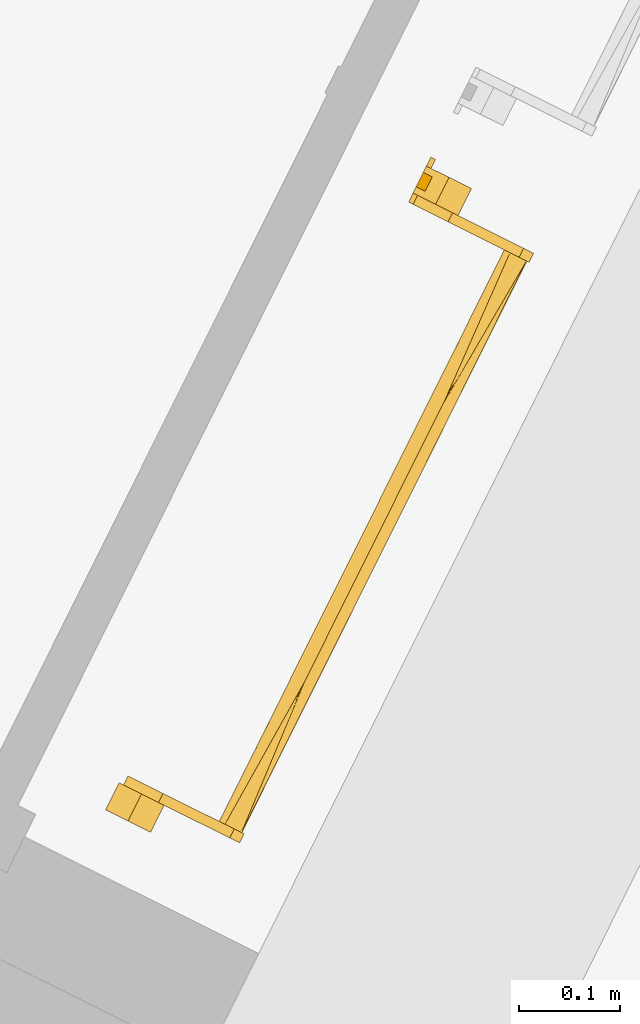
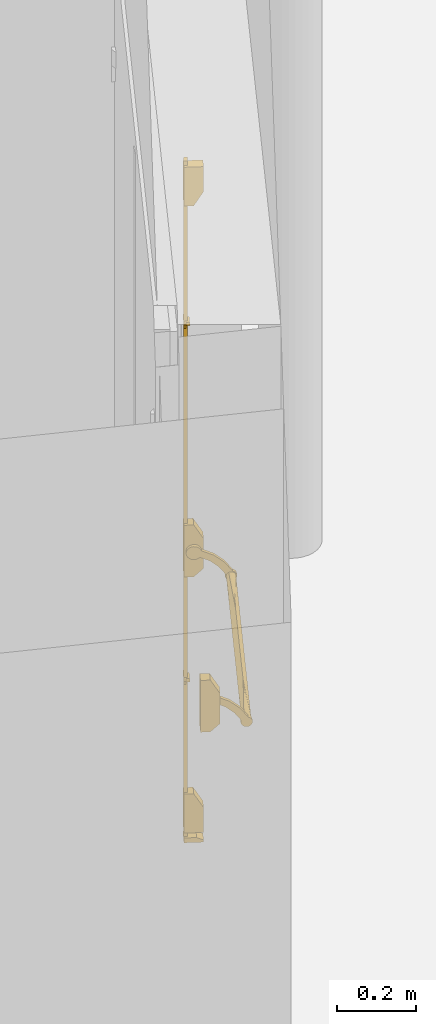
# One storey, part 28 of 91: 1 door.
"""IFC2X3 building model written with IfcOpenShell, lengths in metres."""

from ifc_helpers import new_model, entity, si_unit, converted_unit, derived_unit, direction, frame, origin, place, context, subcontext, project, spatial, faceted_brep, source, transform, mapped, material, material_list, type_object, type_shapes, element, save


model = new_model("IFC2X3")

# Units and contexts
model_context = context("Model", 3, precision=1e-05, world=origin(), true_north=direction((0.894925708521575, 0.446215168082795)))
context_of_model = context(None, 3, precision=1e-05, world=origin(), true_north=direction((0.894925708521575, 0.446215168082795)))
body_context = subcontext(model_context, "Body", "Model", "MODEL_VIEW")
ifc_project = project(units=[si_unit("LENGTHUNIT", "METRE"), si_unit("AREAUNIT", "SQUARE_METRE"), si_unit("VOLUMEUNIT", "CUBIC_METRE"), converted_unit("PLANEANGLEUNIT", "DEGREE", entity("IfcRatioMeasure", 0.0174532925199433), si_unit("PLANEANGLEUNIT", "RADIAN"), dimensions=[0, 0, 0, 0, 0, 0, 0]), si_unit("MASSUNIT", "GRAM", prefix="KILO"), si_unit("TIMEUNIT", "SECOND"), si_unit("FREQUENCYUNIT", "HERTZ"), si_unit("THERMODYNAMICTEMPERATUREUNIT", "DEGREE_CELSIUS"), derived_unit("THERMALTRANSMITTANCEUNIT", [(si_unit("MASSUNIT", "GRAM", prefix="KILO"), 1), (si_unit("THERMODYNAMICTEMPERATUREUNIT", "KELVIN"), -1), (si_unit("TIMEUNIT", "SECOND"), -3)]), derived_unit("VOLUMETRICFLOWRATEUNIT", [(si_unit("LENGTHUNIT", "METRE"), 3), (si_unit("TIMEUNIT", "SECOND"), -1)]), si_unit("ELECTRICCURRENTUNIT", "AMPERE"), si_unit("ELECTRICVOLTAGEUNIT", "VOLT"), si_unit("POWERUNIT", "WATT"), si_unit("FORCEUNIT", "NEWTON", prefix="KILO"), si_unit("ILLUMINANCEUNIT", "LUX"), si_unit("LUMINOUSFLUXUNIT", "LUMEN"), si_unit("LUMINOUSINTENSITYUNIT", "CANDELA"), si_unit("PRESSUREUNIT", "PASCAL")], contexts=[model_context, context_of_model])

# Site, building, storey
site_placement = place(None, frame((218.228324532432, 584.720189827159, 0.0), z_axis=(0.0, 0.0, 1.0), x_axis=(0.446215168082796, 0.894925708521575, 0.0)))
site = spatial("IfcSite", under=ifc_project, at=site_placement, Name="Default", CompositionType="ELEMENT")
building_placement = place(site_placement, origin())
building = spatial("IfcBuilding", under=site, at=building_placement, CompositionType="ELEMENT")
storey_placement = place(building_placement, origin())
storey = spatial("IfcBuildingStorey", under=building, at=storey_placement, Name="0 - Piano Terra", CompositionType="ELEMENT", Elevation=0.0)

# Door
ifc_material_1 = material(Name="Peinture - Gris fonçé")
ifc_material_2 = material(Name="Peinture - Gris")
ifc_material_list_1 = material_list([ifc_material_1, ifc_material_2])
ifc_material_list_2 = material_list([ifc_material_1, ifc_material_2])
door_style = type_object("IfcDoorStyle", Name="BarreAP", ConstructionType="NOTDEFINED", OperationType="NOTDEFINED", ParameterTakesPrecedence=False, Sizeable=False, material=ifc_material_list_2)
shared_shape = source(origin(), body_context, "Body", "Brep", [
    faceted_brep([(0.660000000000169, 0.110048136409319, 0.817251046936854), (0.660000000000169, 0.112636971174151, 0.815264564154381), (0.660000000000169, 0.115651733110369, 0.814015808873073), (0.660000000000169, 0.118886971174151, 0.813589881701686), (0.660000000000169, 0.122122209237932, 0.814015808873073), (0.660000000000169, 0.125136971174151, 0.815264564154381), (0.660000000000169, 0.127725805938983, 0.817251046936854), (0.660000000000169, 0.129712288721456, 0.819839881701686), (0.660000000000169, 0.130961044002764, 0.822854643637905), (0.660000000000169, 0.131386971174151, 0.826089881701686), (0.660000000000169, 0.130961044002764, 0.829325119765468), (0.660000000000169, 0.129712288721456, 0.832339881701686), (0.660000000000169, 0.127725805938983, 0.834928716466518), (0.660000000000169, 0.125136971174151, 0.836915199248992), (0.660000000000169, 0.122122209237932, 0.838163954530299), (0.660000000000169, 0.118886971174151, 0.838589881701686), (0.660000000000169, 0.115651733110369, 0.838163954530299), (0.660000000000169, 0.112636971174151, 0.836915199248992), (0.660000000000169, 0.110048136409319, 0.834928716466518), (0.660000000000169, 0.108061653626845, 0.832339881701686), (0.660000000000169, 0.106812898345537, 0.829325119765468), (0.660000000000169, 0.106386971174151, 0.826089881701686), (0.660000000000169, 0.106812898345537, 0.822854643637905), (0.660000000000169, 0.108061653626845, 0.819839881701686), (0.0250000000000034, 0.115651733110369, 0.838163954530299), (0.0250000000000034, 0.118886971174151, 0.838589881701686), (0.0250000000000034, 0.122122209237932, 0.838163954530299), (0.0250000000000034, 0.125136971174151, 0.836915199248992), (0.0250000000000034, 0.127725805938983, 0.834928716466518), (0.0250000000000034, 0.129712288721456, 0.832339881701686), (0.0250000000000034, 0.130961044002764, 0.829325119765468), (0.0250000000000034, 0.131386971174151, 0.826089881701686), (0.0250000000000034, 0.130961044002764, 0.822854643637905), (0.0250000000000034, 0.129712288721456, 0.819839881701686), (0.0250000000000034, 0.127725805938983, 0.817251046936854), (0.0250000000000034, 0.125136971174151, 0.815264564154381), (0.0250000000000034, 0.122122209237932, 0.814015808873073), (0.0250000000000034, 0.118886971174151, 0.813589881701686), (0.0250000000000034, 0.115651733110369, 0.814015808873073), (0.0250000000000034, 0.112636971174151, 0.815264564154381), (0.0250000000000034, 0.110048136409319, 0.817251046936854), (0.0250000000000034, 0.108061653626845, 0.819839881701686), (0.0250000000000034, 0.106812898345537, 0.822854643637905), (0.0250000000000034, 0.106386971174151, 0.826089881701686), (0.0250000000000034, 0.106812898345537, 0.829325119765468), (0.0250000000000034, 0.108061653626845, 0.832339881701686), (0.0250000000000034, 0.110048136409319, 0.834928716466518), (0.0250000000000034, 0.112636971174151, 0.836915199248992), (0.187822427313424, 0.117501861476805, 0.813666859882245), (0.148450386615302, 0.131386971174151, 0.826089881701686), (0.342500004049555, 0.117635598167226, 0.813652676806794), (0.413099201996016, 0.106386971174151, 0.826089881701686), (0.342500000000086, 0.106386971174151, 0.826089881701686), (0.271900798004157, 0.106386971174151, 0.826089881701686), (0.497177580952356, 0.117501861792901, 0.813666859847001), (0.53654961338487, 0.131386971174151, 0.826089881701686), (0.342500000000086, 0.131386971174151, 0.826089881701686), (0.413099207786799, 0.131386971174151, 0.826089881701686), (0.536549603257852, 0.106386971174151, 0.826089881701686), (0.14845039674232, 0.106386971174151, 0.826089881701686), (0.271900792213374, 0.131386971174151, 0.826089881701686), (0.497177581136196, 0.120272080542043, 0.83851290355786), (0.187822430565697, 0.120272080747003, 0.838512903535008), (0.342500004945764, 0.120138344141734, 0.838527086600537)], [[[0, 1, 2, 3, 4, 5, 6, 7, 8, 9, 10, 11, 12, 13, 14, 15, 16, 17, 18, 19, 20, 21, 22, 23]], [[24, 25, 26, 27, 28, 29, 30, 31, 32, 33, 34, 35, 36, 37, 38, 39, 40, 41, 42, 43, 44, 45, 46, 47]], [[38, 48, 39]], [[35, 48, 36]], [[34, 49, 35]], [[40, 39, 48]], [[50, 51, 52, 53]], [[2, 54, 3]], [[7, 6, 55]], [[34, 33, 49]], [[5, 54, 55]], [[48, 38, 37]], [[32, 49, 33]], [[31, 49, 32]], [[55, 9, 8]], [[56, 50, 48]], [[50, 56, 54]], [[54, 56, 57, 55]], [[54, 23, 22]], [[8, 7, 55]], [[36, 48, 37]], [[48, 41, 40]], [[41, 48, 42]], [[53, 42, 48]], [[53, 48, 50]], [[22, 21, 58, 51]], [[42, 53, 59, 43]], [[48, 49, 60, 56]], [[5, 55, 6]], [[54, 5, 4]], [[51, 54, 22]], [[54, 4, 3]], [[1, 0, 54]], [[54, 2, 1]], [[48, 35, 49]], [[54, 51, 50]], [[54, 0, 23]], [[61, 11, 10]], [[62, 47, 59]], [[57, 61, 10]], [[24, 47, 62]], [[52, 63, 62]], [[61, 12, 11]], [[58, 19, 18]], [[46, 45, 59]], [[26, 25, 62]], [[17, 61, 58]], [[44, 43, 59]], [[58, 21, 20]], [[14, 61, 15]], [[58, 20, 19]], [[61, 63, 52]], [[24, 62, 25]], [[59, 47, 46]], [[62, 28, 27]], [[61, 52, 51, 58]], [[63, 57, 56, 60]], [[44, 59, 45]], [[28, 62, 29]], [[29, 62, 30]], [[60, 30, 62]], [[60, 62, 63]], [[10, 9, 55, 57]], [[30, 60, 49, 31]], [[26, 62, 27]], [[17, 58, 18]], [[17, 16, 61]], [[61, 16, 15]], [[61, 13, 12]], [[13, 61, 14]], [[61, 57, 63]], [[62, 59, 53, 52]]]),
    faceted_brep([(0.660000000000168, 0.0117100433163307, 0.885054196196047), (0.660000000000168, 0.00829982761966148, 0.888995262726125), (0.660000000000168, 0.0060236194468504, 0.893683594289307), (0.660000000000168, 0.00503598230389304, 0.898800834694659), (0.660000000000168, 0.00540398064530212, 0.903999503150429), (0.660000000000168, 0.00710262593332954, 0.908926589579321), (0.660000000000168, 0.0100165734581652, 0.913247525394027), (0.660000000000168, 0.0139479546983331, 0.916668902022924), (0.660000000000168, 0.0186298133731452, 0.918958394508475), (0.660000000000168, 0.0237442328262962, 0.919960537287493), (0.660000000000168, 0.0289439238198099, 0.919607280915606), (0.660000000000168, 0.0338758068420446, 0.91792261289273), (0.660000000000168, 0.0382049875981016, 0.915020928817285), (0.660000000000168, 0.041637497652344, 0.911099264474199), (0.660000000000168, 0.0439402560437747, 0.906423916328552), (0.660000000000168, 0.0755453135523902, 0.891366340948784), (0.660000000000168, 0.10242643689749, 0.868938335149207), (0.660000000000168, 0.122902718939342, 0.840542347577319), (0.660000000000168, 0.126402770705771, 0.839071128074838), (0.660000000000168, 0.129421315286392, 0.836768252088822), (0.660000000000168, 0.13176496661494, 0.833781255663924), (0.660000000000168, 0.133283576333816, 0.830301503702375), (0.660000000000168, 0.133879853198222, 0.826551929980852), (0.660000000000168, 0.133515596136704, 0.822772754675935), (0.660000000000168, 0.132214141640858, 0.819206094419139), (0.660000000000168, 0.130058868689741, 0.816080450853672), (0.660000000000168, 0.127187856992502, 0.813596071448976), (0.660000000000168, 0.123785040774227, 0.811912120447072), (0.660000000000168, 0.120068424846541, 0.811136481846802), (0.660000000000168, 0.11627611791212, 0.811318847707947), (0.660000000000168, 0.112651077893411, 0.812447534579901), (0.660000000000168, 0.109425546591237, 0.814450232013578), (0.660000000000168, 0.106806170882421, 0.817198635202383), (0.660000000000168, 0.104960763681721, 0.820516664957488), (0.660000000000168, 0.10400755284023, 0.824191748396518), (0.660000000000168, 0.104007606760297, 0.827988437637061), (0.660000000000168, 0.10496092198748, 0.831663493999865), (0.660000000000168, 0.0879705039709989, 0.855114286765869), (0.660000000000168, 0.065856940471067, 0.873811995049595), (0.660000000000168, 0.039908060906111, 0.886667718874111), (0.660000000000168, 0.0359573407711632, 0.883268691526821), (0.660000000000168, 0.0312625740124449, 0.881005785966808), (0.660000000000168, 0.0261425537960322, 0.880032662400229), (0.660000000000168, 0.0209449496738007, 0.880415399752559), (0.660000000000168, 0.0160226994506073, 0.88212800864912), (0.670000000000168, 0.133515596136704, 0.822772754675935), (0.670000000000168, 0.133879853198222, 0.826551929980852), (0.670000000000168, 0.133283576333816, 0.830301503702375), (0.670000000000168, 0.13176496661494, 0.833781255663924), (0.670000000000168, 0.129421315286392, 0.836768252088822), (0.670000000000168, 0.126402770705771, 0.839071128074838), (0.670000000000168, 0.122902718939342, 0.840542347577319), (0.670000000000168, 0.10242643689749, 0.868938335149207), (0.670000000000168, 0.0755453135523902, 0.891366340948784), (0.670000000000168, 0.0439402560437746, 0.906423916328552), (0.670000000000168, 0.041637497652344, 0.911099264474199), (0.670000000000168, 0.0382049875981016, 0.915020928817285), (0.670000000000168, 0.0338758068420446, 0.91792261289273), (0.670000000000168, 0.0289439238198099, 0.919607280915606), (0.670000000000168, 0.0237442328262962, 0.919960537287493), (0.670000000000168, 0.0186298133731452, 0.918958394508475), (0.670000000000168, 0.0139479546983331, 0.916668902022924), (0.670000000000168, 0.0100165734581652, 0.913247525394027), (0.670000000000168, 0.00710262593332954, 0.908926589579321), (0.670000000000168, 0.00540398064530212, 0.903999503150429), (0.670000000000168, 0.00503598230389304, 0.898800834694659), (0.670000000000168, 0.0060236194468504, 0.893683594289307), (0.670000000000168, 0.00829982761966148, 0.888995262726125), (0.670000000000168, 0.0117100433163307, 0.885054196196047), (0.670000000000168, 0.0160226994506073, 0.88212800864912), (0.670000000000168, 0.0209449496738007, 0.880415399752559), (0.670000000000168, 0.0261425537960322, 0.880032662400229), (0.670000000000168, 0.0312625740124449, 0.881005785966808), (0.670000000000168, 0.0359573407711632, 0.883268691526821), (0.670000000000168, 0.039908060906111, 0.886667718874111), (0.670000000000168, 0.065856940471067, 0.873811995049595), (0.670000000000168, 0.0879705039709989, 0.855114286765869), (0.670000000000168, 0.10496092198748, 0.831663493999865), (0.670000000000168, 0.104007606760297, 0.827988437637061), (0.670000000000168, 0.10400755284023, 0.824191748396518), (0.670000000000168, 0.104960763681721, 0.820516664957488), (0.670000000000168, 0.106806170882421, 0.817198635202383), (0.670000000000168, 0.109425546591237, 0.814450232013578), (0.670000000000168, 0.112651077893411, 0.812447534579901), (0.670000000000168, 0.11627611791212, 0.811318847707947), (0.670000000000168, 0.120068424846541, 0.811136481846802), (0.670000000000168, 0.123785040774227, 0.811912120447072), (0.670000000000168, 0.127187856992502, 0.813596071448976), (0.670000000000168, 0.130058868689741, 0.816080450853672), (0.670000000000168, 0.132214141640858, 0.819206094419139)], [[[0, 1, 2, 3, 4, 5, 6, 7, 8, 9, 10, 11, 12, 13, 14, 15, 16, 17, 18, 19, 20, 21, 22, 23, 24, 25, 26, 27, 28, 29, 30, 31, 32, 33, 34, 35, 36, 37, 38, 39, 40, 41, 42, 43, 44]], [[45, 46, 47, 48, 49, 50, 51, 52, 53, 54, 55, 56, 57, 58, 59, 60, 61, 62, 63, 64, 65, 66, 67, 68, 69, 70, 71, 72, 73, 74, 75, 76, 77, 78, 79, 80, 81, 82, 83, 84, 85, 86, 87, 88, 89]], [[54, 14, 13, 55]], [[56, 12, 11, 57]], [[56, 55, 13, 12]], [[58, 57, 11, 10]], [[60, 59, 9, 8]], [[62, 61, 7, 6]], [[7, 61, 60, 8]], [[9, 59, 58, 10]], [[62, 6, 5, 63]], [[4, 64, 63, 5]], [[64, 4, 3, 65]], [[66, 2, 1, 67]], [[66, 65, 3, 2]], [[68, 67, 1, 0]], [[70, 69, 44, 43]], [[72, 71, 42, 41]], [[42, 71, 70, 43]], [[44, 69, 68, 0]], [[72, 41, 40, 73]], [[40, 39, 74, 73]], [[39, 38, 75, 74]], [[38, 37, 76, 75]], [[37, 36, 77, 76]], [[77, 36, 35, 78]], [[79, 34, 33, 80]], [[79, 78, 35, 34]], [[81, 80, 33, 32]], [[83, 82, 31, 30]], [[85, 84, 29, 28]], [[29, 84, 83, 30]], [[31, 82, 81, 32]], [[85, 28, 27, 86]], [[27, 26, 87, 86]], [[87, 26, 25, 88]], [[89, 24, 23, 45]], [[89, 88, 25, 24]], [[46, 45, 23, 22]], [[48, 47, 21, 20]], [[50, 49, 19, 18]], [[19, 49, 48, 20]], [[21, 47, 46, 22]], [[50, 18, 17, 51]], [[16, 52, 51, 17]], [[16, 15, 53, 52]], [[14, 54, 53, 15]]]),
    faceted_brep([(0.025, 0.109425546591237, 0.81445023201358), (0.025, 0.112651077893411, 0.812447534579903), (0.025, 0.11627611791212, 0.811318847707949), (0.025, 0.120068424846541, 0.811136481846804), (0.025, 0.123785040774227, 0.811912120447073), (0.025, 0.127187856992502, 0.813596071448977), (0.025, 0.130058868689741, 0.816080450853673), (0.025, 0.132214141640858, 0.819206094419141), (0.025, 0.133515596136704, 0.822772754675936), (0.025, 0.133879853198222, 0.826551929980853), (0.025, 0.133283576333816, 0.830301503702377), (0.025, 0.13176496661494, 0.833781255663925), (0.025, 0.129421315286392, 0.836768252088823), (0.025, 0.126402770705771, 0.839071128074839), (0.025, 0.122902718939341, 0.840542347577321), (0.025, 0.10242643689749, 0.868938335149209), (0.025, 0.0755453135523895, 0.891366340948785), (0.025, 0.0439402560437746, 0.906423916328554), (0.025, 0.041637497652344, 0.9110992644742), (0.025, 0.0382049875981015, 0.915020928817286), (0.025, 0.0338758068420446, 0.917922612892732), (0.025, 0.0289439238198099, 0.919607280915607), (0.025, 0.0237442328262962, 0.919960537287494), (0.025, 0.0186298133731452, 0.918958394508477), (0.025, 0.0139479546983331, 0.916668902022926), (0.025, 0.0100165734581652, 0.913247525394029), (0.025, 0.00710262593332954, 0.908926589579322), (0.025, 0.00540398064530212, 0.903999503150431), (0.025, 0.00503598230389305, 0.89880083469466), (0.025, 0.00602361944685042, 0.893683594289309), (0.025, 0.00829982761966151, 0.888995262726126), (0.025, 0.0117100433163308, 0.885054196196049), (0.025, 0.0160226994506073, 0.882128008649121), (0.025, 0.0209449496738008, 0.880415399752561), (0.025, 0.0261425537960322, 0.88003266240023), (0.025, 0.031262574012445, 0.881005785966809), (0.025, 0.0359573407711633, 0.883268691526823), (0.025, 0.0399080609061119, 0.886667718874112), (0.025, 0.0658569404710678, 0.873811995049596), (0.025, 0.0879705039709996, 0.85511428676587), (0.025, 0.10496092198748, 0.831663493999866), (0.025, 0.104007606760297, 0.827988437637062), (0.025, 0.10400755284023, 0.824191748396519), (0.025, 0.104960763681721, 0.82051666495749), (0.025, 0.106806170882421, 0.817198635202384), (0.015, 0.0139479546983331, 0.916668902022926), (0.015, 0.0186298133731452, 0.918958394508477), (0.015, 0.0237442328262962, 0.919960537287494), (0.015, 0.0289439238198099, 0.919607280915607), (0.015, 0.0338758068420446, 0.917922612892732), (0.015, 0.0382049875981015, 0.915020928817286), (0.015, 0.041637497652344, 0.9110992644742), (0.015, 0.0439402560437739, 0.906423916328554), (0.015, 0.0755453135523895, 0.891366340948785), (0.015, 0.10242643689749, 0.868938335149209), (0.015, 0.122902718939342, 0.84054234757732), (0.015, 0.126402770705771, 0.839071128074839), (0.015, 0.129421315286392, 0.836768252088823), (0.015, 0.13176496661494, 0.833781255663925), (0.015, 0.133283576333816, 0.830301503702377), (0.015, 0.133879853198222, 0.826551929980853), (0.015, 0.133515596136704, 0.822772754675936), (0.015, 0.132214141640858, 0.819206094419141), (0.015, 0.130058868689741, 0.816080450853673), (0.015, 0.127187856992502, 0.813596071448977), (0.015, 0.123785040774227, 0.811912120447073), (0.015, 0.120068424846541, 0.811136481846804), (0.015, 0.11627611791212, 0.811318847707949), (0.015, 0.112651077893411, 0.812447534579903), (0.015, 0.109425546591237, 0.81445023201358), (0.015, 0.106806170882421, 0.817198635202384), (0.015, 0.104960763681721, 0.82051666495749), (0.015, 0.10400755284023, 0.824191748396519), (0.015, 0.104007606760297, 0.827988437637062), (0.015, 0.10496092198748, 0.831663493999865), (0.015, 0.0879705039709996, 0.85511428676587), (0.015, 0.0658569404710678, 0.873811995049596), (0.015, 0.0399080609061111, 0.886667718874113), (0.015, 0.0359573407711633, 0.883268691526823), (0.015, 0.031262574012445, 0.881005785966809), (0.015, 0.0261425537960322, 0.88003266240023), (0.015, 0.0209449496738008, 0.880415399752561), (0.015, 0.0160226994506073, 0.882128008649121), (0.015, 0.0117100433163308, 0.885054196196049), (0.015, 0.00829982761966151, 0.888995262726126), (0.015, 0.00602361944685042, 0.893683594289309), (0.015, 0.00503598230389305, 0.89880083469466), (0.015, 0.00540398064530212, 0.903999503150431), (0.015, 0.00710262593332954, 0.908926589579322), (0.015, 0.0100165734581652, 0.913247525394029)], [[[0, 1, 2, 3, 4, 5, 6, 7, 8, 9, 10, 11, 12, 13, 14, 15, 16, 17, 18, 19, 20, 21, 22, 23, 24, 25, 26, 27, 28, 29, 30, 31, 32, 33, 34, 35, 36, 37, 38, 39, 40, 41, 42, 43, 44]], [[45, 46, 47, 48, 49, 50, 51, 52, 53, 54, 55, 56, 57, 58, 59, 60, 61, 62, 63, 64, 65, 66, 67, 68, 69, 70, 71, 72, 73, 74, 75, 76, 77, 78, 79, 80, 81, 82, 83, 84, 85, 86, 87, 88, 89]], [[16, 53, 52, 17]], [[16, 15, 54, 53]], [[14, 55, 54, 15]], [[55, 14, 13, 56]], [[57, 12, 11, 58]], [[57, 56, 13, 12]], [[59, 58, 11, 10]], [[61, 60, 9, 8]], [[63, 62, 7, 6]], [[7, 62, 61, 8]], [[9, 60, 59, 10]], [[63, 6, 5, 64]], [[5, 4, 65, 64]], [[65, 4, 3, 66]], [[67, 2, 1, 68]], [[67, 66, 3, 2]], [[69, 68, 1, 0]], [[71, 70, 44, 43]], [[73, 72, 42, 41]], [[42, 72, 71, 43]], [[44, 70, 69, 0]], [[73, 41, 40, 74]], [[40, 39, 75, 74]], [[39, 38, 76, 75]], [[38, 37, 77, 76]], [[77, 37, 36, 78]], [[79, 35, 34, 80]], [[79, 78, 36, 35]], [[81, 80, 34, 33]], [[83, 82, 32, 31]], [[85, 84, 30, 29]], [[30, 84, 83, 31]], [[32, 82, 81, 33]], [[85, 29, 28, 86]], [[27, 87, 86, 28]], [[87, 27, 26, 88]], [[89, 25, 24, 45]], [[89, 88, 26, 25]], [[46, 45, 24, 23]], [[48, 47, 22, 21]], [[50, 49, 20, 19]], [[20, 49, 48, 21]], [[22, 47, 46, 23]], [[50, 19, 18, 51]], [[18, 17, 52, 51]]]),
    faceted_brep([(0.700000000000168, 0.0500000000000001, 0.936698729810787), (0.700000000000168, 0.0250000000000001, 0.980000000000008), (0.700000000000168, 0.0, 0.980000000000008), (0.700000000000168, 0.0, 0.819999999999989), (0.700000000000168, 0.0250000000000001, 0.819999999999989), (0.700000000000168, 0.0500000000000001, 0.844999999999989), (0.670000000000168, 0.0500000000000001, 0.936698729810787), (0.670000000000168, 0.0500000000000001, 0.844999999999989), (0.670000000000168, 0.0250000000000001, 0.819999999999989), (0.670000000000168, 0.0, 0.819999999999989), (0.670000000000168, 0.0, 0.980000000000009), (0.670000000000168, 0.0250000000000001, 0.980000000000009)], [[[0, 1, 2, 3, 4, 5]], [[6, 7, 8, 9, 10, 11]], [[5, 7, 6, 0]], [[4, 8, 7, 5]], [[3, 9, 8, 4]], [[2, 10, 9, 3]], [[1, 11, 10, 2]], [[0, 6, 11, 1]]]),
    faceted_brep([(-0.0129999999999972, 0.005, 1.605), (-0.0249999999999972, 0.005, 1.605), (-0.0249999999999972, 0.0, 1.605), (-0.00799999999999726, 0.0, 1.605), (-0.00799999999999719, 0.01, 1.605), (0.00800000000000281, 0.01, 1.605), (0.00800000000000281, 0.0, 1.605), (0.0250000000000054, 0.0, 1.605), (0.0250000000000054, 0.005, 1.605), (0.013000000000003, 0.005, 1.605), (0.0130000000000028, 0.015, 1.605), (-0.0129999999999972, 0.015, 1.605), (-0.0129999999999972, 0.005, 1.595), (-0.0129999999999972, 0.015, 1.595), (0.0130000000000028, 0.015, 1.595), (0.013000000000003, 0.005, 1.595), (0.0250000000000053, 0.005, 1.595), (0.0250000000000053, 0.0, 1.595), (0.00800000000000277, 0.0, 1.595), (0.00800000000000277, 0.01, 1.595), (-0.00799999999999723, 0.01, 1.595), (-0.00799999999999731, 0.0, 1.595), (-0.0249999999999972, 0.0, 1.595), (-0.0249999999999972, 0.005, 1.595)], [[[0, 1, 2, 3, 4, 5, 6, 7, 8, 9, 10, 11]], [[12, 13, 14, 15, 16, 17, 18, 19, 20, 21, 22, 23]], [[11, 13, 12, 0]], [[10, 14, 13, 11]], [[9, 15, 14, 10]], [[8, 16, 15, 9]], [[7, 17, 16, 8]], [[6, 18, 17, 7]], [[5, 19, 18, 6]], [[4, 20, 19, 5]], [[3, 21, 20, 4]], [[2, 22, 21, 3]], [[1, 23, 22, 2]], [[0, 12, 23, 1]]]),
    faceted_brep([(0.015, 0.0500000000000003, 2.00830127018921), (0.015, 0.0500000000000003, 2.08499999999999), (0.015, 0.0, 2.08499999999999), (0.015, 0.0, 1.96499999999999), (0.015, 0.0250000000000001, 1.96499999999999), (-0.015, 0.0500000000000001, 0.106698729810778), (-0.015, 0.0500000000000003, 0.0300000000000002), (-0.015, 0.0, 0.0300000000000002), (-0.015, 0.0, 0.15), (-0.015, 0.0250000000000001, 0.15), (-0.015, 0.0250000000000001, 1.96499999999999), (-0.015, 0.0500000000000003, 2.00830127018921), (0.008, 0.0, 1.96499999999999), (0.008, 0.01, 1.96499999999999), (-0.008, 0.01, 1.96499999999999), (-0.008, 0.0, 1.96499999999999), (-0.015, 0.0, 1.96499999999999), (0.008, 0.0, 2.08499999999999), (0.008, 0.0, 2.1), (-0.008, 0.0, 2.1), (-0.008, 0.0, 2.08499999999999), (-0.015, 0.0, 2.08499999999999), (-0.008, 0.0, 0.98000000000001), (-0.015, 0.0, 0.98000000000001), (-0.015, 0.0, 0.819999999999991), (-0.008, 0.0, 0.819999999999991), (-0.008, 0.0, 0.15), (-0.008, 0.0, 0.0300000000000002), (-0.008, 0.0, 0.0149999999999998), (0.008, 0.0, 0.0149999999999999), (0.008, 0.0, 0.0300000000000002), (0.015, 0.0, 0.0300000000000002), (0.015, 0.0, 0.15), (0.008, 0.0, 0.15), (0.008, 0.0, 0.819999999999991), (0.015, 0.0, 0.819999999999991), (0.015, 0.0, 0.98000000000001), (0.008, 0.0, 0.98000000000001), (-0.015, 0.0500000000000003, 2.08499999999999), (-0.008, 0.01, 2.08499999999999), (0.008, 0.01, 2.08499999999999), (0.015, 0.0500000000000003, 0.0300000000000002), (0.015, 0.0500000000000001, 0.106698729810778), (0.008, 0.01, 0.0300000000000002), (-0.008, 0.01, 0.0300000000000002), (0.015, 0.0250000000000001, 0.15), (-0.008, 0.01, 0.15), (0.008, 0.01, 0.15), (0.008, 0.01, 2.1), (-0.008, 0.01, 2.1), (-0.008, 0.01, 0.0149999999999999), (0.008, 0.01, 0.0149999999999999), (0.015, 0.025, 0.98000000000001), (0.015, 0.025, 0.819999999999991), (0.015, 0.0500000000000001, 0.844999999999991), (0.015, 0.0500000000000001, 0.936698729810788), (-0.015, 0.025, 0.98000000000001), (-0.015, 0.0500000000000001, 0.936698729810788), (-0.015, 0.0500000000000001, 0.844999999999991), (-0.015, 0.025, 0.819999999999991), (0.008, 0.01, 0.819999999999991), (-0.008, 0.01, 0.819999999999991), (-0.008, 0.01, 0.98000000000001), (0.008, 0.01, 0.98000000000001)], [[[0, 1, 2, 3, 4]], [[5, 6, 7, 8, 9]], [[4, 10, 11, 0]], [[3, 12, 13, 14, 15, 16, 10, 4]], [[2, 17, 18, 19, 20, 21, 16, 15, 22, 23, 24, 25, 26, 8, 7, 27, 28, 29, 30, 31, 32, 33, 34, 35, 36, 37, 12, 3]], [[1, 38, 21, 20, 39, 40, 17, 2]], [[0, 11, 38, 1]], [[41, 6, 5, 42]], [[31, 30, 43, 44, 27, 7, 6, 41]], [[45, 9, 8, 26, 46, 47, 33, 32]], [[42, 5, 9, 45]], [[18, 48, 49, 19]], [[29, 28, 50, 51]], [[49, 39, 20, 19]], [[48, 40, 39, 49]], [[18, 17, 40, 48]], [[52, 36, 35, 53, 54, 55]], [[56, 57, 58, 59, 24, 23]], [[55, 57, 56, 52]], [[54, 58, 57, 55]], [[53, 59, 58, 54]], [[35, 34, 60, 61, 25, 24, 59, 53]], [[52, 56, 23, 22, 62, 63, 37, 36]], [[12, 37, 63, 13]], [[47, 60, 34, 33]], [[51, 43, 30, 29]], [[13, 63, 62, 14]], [[46, 61, 60, 47]], [[50, 44, 43, 51]], [[14, 62, 22, 15]], [[26, 25, 61, 46]], [[28, 27, 44, 50]], [[11, 10, 16, 21, 38]], [[42, 45, 32, 31, 41]]]),
    faceted_brep([(-0.00799999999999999, 0.01, 0.505), (0.00800000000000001, 0.01, 0.504999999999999), (0.00800000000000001, 0.0, 0.504999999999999), (0.0250000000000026, 0.0, 0.504999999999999), (0.0250000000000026, 0.005, 0.504999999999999), (0.013, 0.005, 0.504999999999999), (0.013, 0.015, 0.504999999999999), (-0.013, 0.015, 0.505), (-0.013, 0.005, 0.505), (-0.025, 0.005, 0.505), (-0.025, 0.0, 0.505), (-0.00800000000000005, 0.0, 0.505), (-0.00800000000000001, 0.01, 0.495), (-0.00800000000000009, 0.0, 0.495), (-0.025, 0.0, 0.495), (-0.025, 0.005, 0.495), (-0.013, 0.005, 0.495), (-0.013, 0.015, 0.495), (0.013, 0.015, 0.494999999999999), (0.013, 0.005, 0.494999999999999), (0.0250000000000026, 0.005, 0.494999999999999), (0.0250000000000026, 0.0, 0.494999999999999), (0.00799999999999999, 0.0, 0.494999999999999), (0.00799999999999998, 0.01, 0.494999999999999)], [[[0, 1, 2, 3, 4, 5, 6, 7, 8, 9, 10, 11]], [[12, 13, 14, 15, 16, 17, 18, 19, 20, 21, 22, 23]], [[11, 13, 12, 0]], [[10, 14, 13, 11]], [[9, 15, 14, 10]], [[8, 16, 15, 9]], [[7, 17, 16, 8]], [[6, 18, 17, 7]], [[5, 19, 18, 6]], [[4, 20, 19, 5]], [[3, 21, 20, 4]], [[2, 22, 21, 3]], [[1, 23, 22, 2]], [[0, 12, 23, 1]]]),
    faceted_brep([(0.015, 0.0322782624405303, 0.015), (0.015, 0.0, 0.0149999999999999), (0.015, 0.0, 0.0), (0.015, 0.0500000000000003, 0.0), (0.015, 0.0500000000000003, 0.00673621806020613), (-0.015, 0.0322782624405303, 0.015), (-0.015, 0.0500000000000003, 0.00673621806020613), (-0.015, 0.0500000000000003, 0.0), (-0.015, 0.0, 0.0), (-0.015, 0.0, 0.0149999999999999)], [[[0, 1, 2, 3, 4]], [[5, 6, 7, 8, 9]], [[4, 6, 5, 0]], [[3, 7, 6, 4]], [[2, 8, 7, 3]], [[1, 9, 8, 2]], [[0, 5, 9, 1]]]),
])
type_shapes(door_style, [shared_shape])
door_placement = place(storey_placement, frame((52.1959369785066, 0.998921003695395, 0.0), z_axis=(0.0, 0.0, 1.0), x_axis=(-1.0, 0.0, 0.0)))
element("IfcDoor", 1, at=door_placement, inside=storey, type_object=door_style, material=ifc_material_list_1, Name="BarreAP:BarreAP", ObjectType="BarreAP", OverallHeight=2.1, OverallWidth=0.760000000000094, context=body_context, shape_type="MappedRepresentation", body=[
    mapped(shared_shape, transform((0.0, 0.0, 0.0), scale=1.0)),
])

save(model, "model.ifc")
